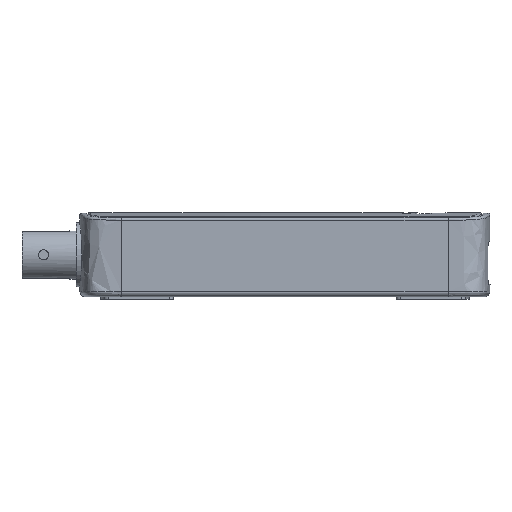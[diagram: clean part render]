
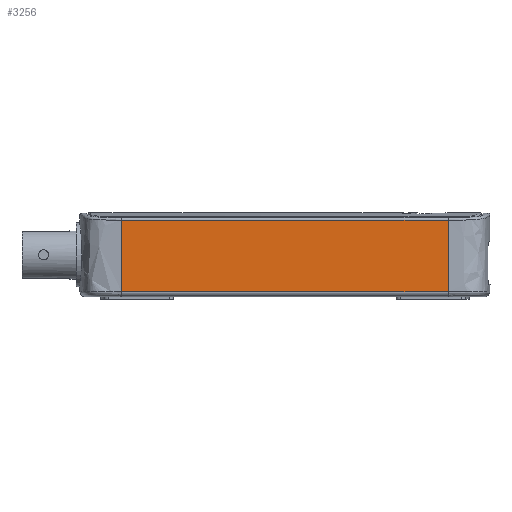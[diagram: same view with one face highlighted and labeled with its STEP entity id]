
A CAD part, left-side view. The second image highlights one B-rep face of the part: STEP entity #3256.
In plain terms, the highlighted planar face has unit normal (-1, 0, 0).
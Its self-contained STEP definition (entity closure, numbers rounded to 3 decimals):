
#219 = CARTESIAN_POINT ( 'NONE',  ( -11.497, -32.479, -11.631 ) ) ;
#409 = DIRECTION ( 'NONE',  ( -1., 0., 0. ) ) ;
#2206 = CARTESIAN_POINT ( 'NONE',  ( -11.497, 32.479, 0.01 ) ) ;
#2396 = EDGE_CURVE ( 'NONE', #2795, #10598, #3554, .T. ) ;
#2532 = EDGE_CURVE ( 'NONE', #5138, #2795, #6284, .T. ) ;
#2539 = CARTESIAN_POINT ( 'NONE',  ( -11.497, -32.479, -11.631 ) ) ;
#2795 = VERTEX_POINT ( 'NONE', #4766 ) ;
#2956 = ORIENTED_EDGE ( 'NONE', *, *, #5860, .T. ) ;
#3256 = ADVANCED_FACE ( 'NONE', ( #8031 ), #5468, .T. ) ;
#3440 = CARTESIAN_POINT ( 'NONE',  ( -11.497, 32.479, 2.601 ) ) ;
#3554 = LINE ( 'NONE', #2539, #6606 ) ;
#3590 = ORIENTED_EDGE ( 'NONE', *, *, #2396, .T. ) ;
#3718 = DIRECTION ( 'NONE',  ( 0., -1., 0. ) ) ;
#3884 = VECTOR ( 'NONE', #10190, 1000. ) ;
#3947 = EDGE_LOOP ( 'NONE', ( #6891, #3590, #5090, #2956 ) ) ;
#4418 = VERTEX_POINT ( 'NONE', #5283 ) ;
#4569 = LINE ( 'NONE', #9318, #3884 ) ;
#4593 = VECTOR ( 'NONE', #7655, 1000. ) ;
#4766 = CARTESIAN_POINT ( 'NONE',  ( -11.497, 32.479, -11.631 ) ) ;
#5090 = ORIENTED_EDGE ( 'NONE', *, *, #5314, .F. ) ;
#5103 = LINE ( 'NONE', #8528, #4593 ) ;
#5138 = VERTEX_POINT ( 'NONE', #3440 ) ;
#5283 = CARTESIAN_POINT ( 'NONE',  ( -11.497, -32.479, 2.601 ) ) ;
#5314 = EDGE_CURVE ( 'NONE', #4418, #10598, #4569, .T. ) ;
#5468 = PLANE ( 'NONE',  #6224 ) ;
#5860 = EDGE_CURVE ( 'NONE', #4418, #5138, #5103, .T. ) ;
#6224 = AXIS2_PLACEMENT_3D ( 'NONE', #7862, #409, #3718 ) ;
#6284 = LINE ( 'NONE', #2206, #8668 ) ;
#6606 = VECTOR ( 'NONE', #6779, 1000. ) ;
#6779 = DIRECTION ( 'NONE',  ( 0., -1., 0. ) ) ;
#6891 = ORIENTED_EDGE ( 'NONE', *, *, #2532, .T. ) ;
#7655 = DIRECTION ( 'NONE',  ( 0., 1., 0. ) ) ;
#7862 = CARTESIAN_POINT ( 'NONE',  ( -11.497, -32.479, 0.01 ) ) ;
#8031 = FACE_OUTER_BOUND ( 'NONE', #3947, .T. ) ;
#8528 = CARTESIAN_POINT ( 'NONE',  ( -11.497, -32.479, 2.601 ) ) ;
#8668 = VECTOR ( 'NONE', #9610, 1000. ) ;
#9318 = CARTESIAN_POINT ( 'NONE',  ( -11.497, -32.479, 0.01 ) ) ;
#9610 = DIRECTION ( 'NONE',  ( 0., 0., -1. ) ) ;
#10190 = DIRECTION ( 'NONE',  ( 0., 0., -1. ) ) ;
#10598 = VERTEX_POINT ( 'NONE', #219 ) ;
